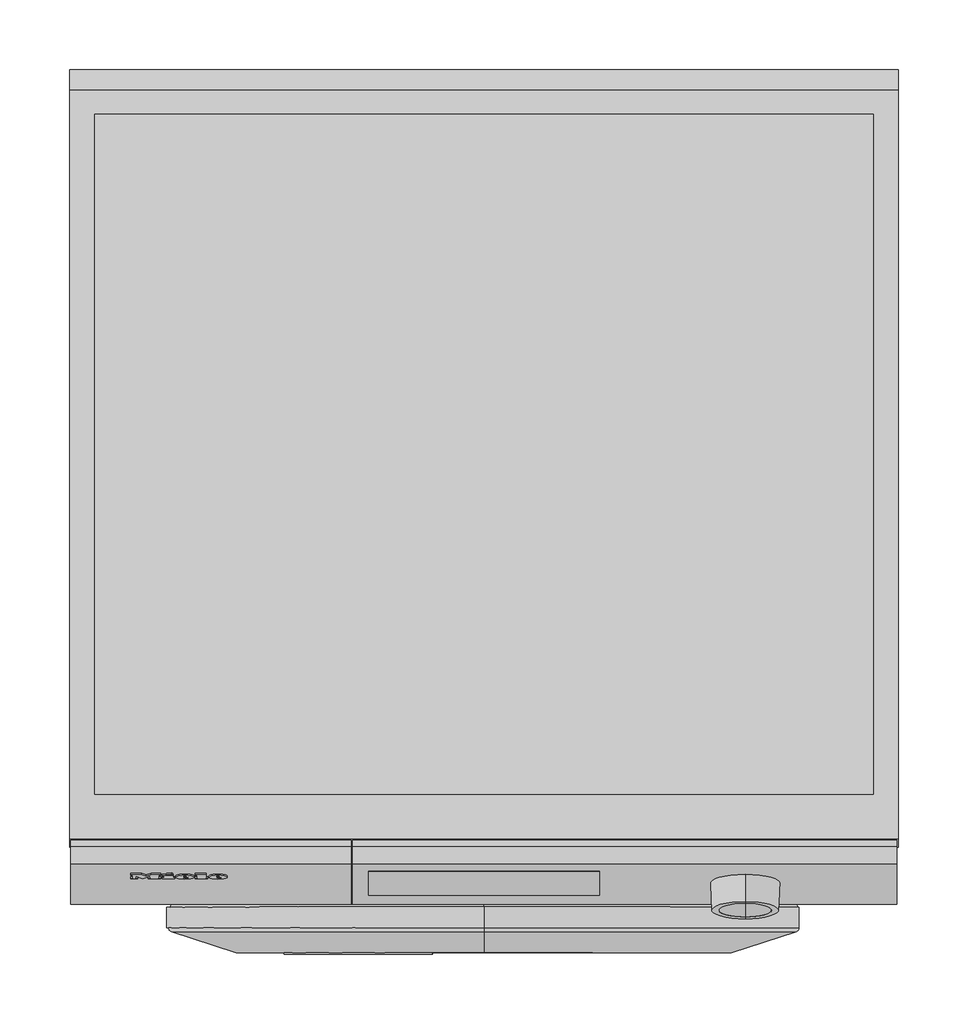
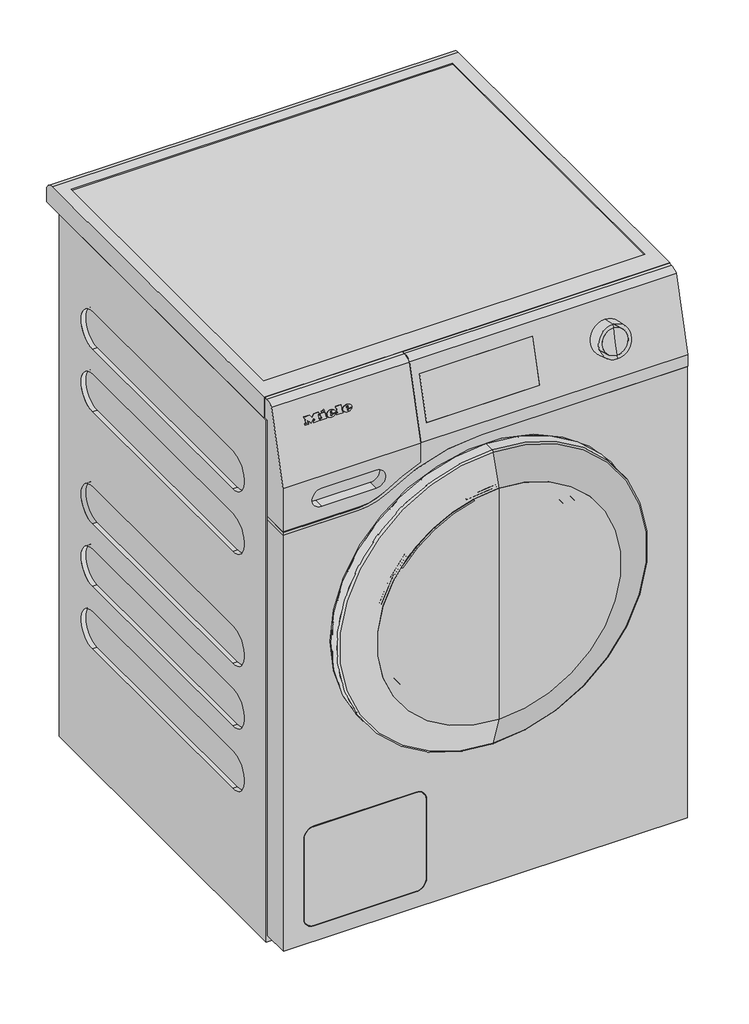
# Not in any storey: 1 proxy.
"""IFC4 building model written with IfcOpenShell, lengths in millimetres."""

from ifc_helpers import new_model, si_unit, origin, place, context, project, spatial, transform, mapped, element, save
from components import specialty_equipment_d4bfd174, specialty_equipment_d5196754

model = new_model("IFC4")

# Units and contexts
model_context = context("Model", 3, world=origin())
ifc_project = project(units=[si_unit("LENGTHUNIT", "METRE", prefix="MILLI")], contexts=[model_context])

# Site, building
site = spatial("IfcSite", under=ifc_project)
building = spatial("IfcBuilding", under=site)

# Proxy
placement = place(None, origin())
specialty_equipment_shape = specialty_equipment_d4bfd174(model_context)
specialty_equipment_2_shape = specialty_equipment_d5196754(model_context)
element("IfcBuildingElementProxy", 1, Name="11331950_GB_WDD131WPS_LW : 11DD1313_GB_11331950_WDD131WPS_LW", ObjectType="11331950_GB_WDD131WPS_LW : 11DD1313_GB_11331950_WDD131WPS_LW", at=placement, inside=building, context=model_context, shape_type="MappedRepresentation", body=[
    mapped(specialty_equipment_shape, transform((0.0, 0.0, 0.0), x_axis=(1.0, 0.0, 0.0), y_axis=(0.0, 1.0, 0.0), z_axis=(0.0, 0.0, 1.0))),
    mapped(specialty_equipment_2_shape, transform((0.0, 0.0, 0.0), x_axis=(1.0, 0.0, 0.0), y_axis=(0.0, 1.0, 0.0), z_axis=(0.0, 0.0, 1.0))),
])

save(model, "model.ifc")
